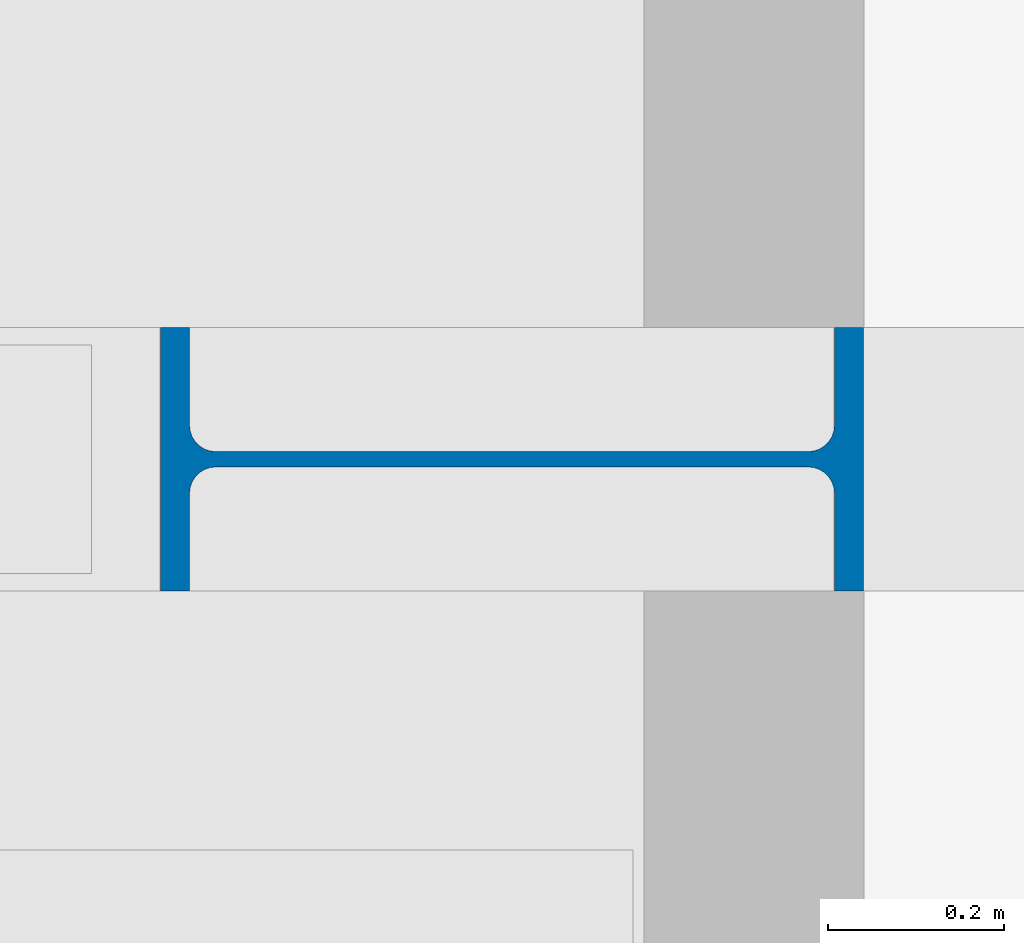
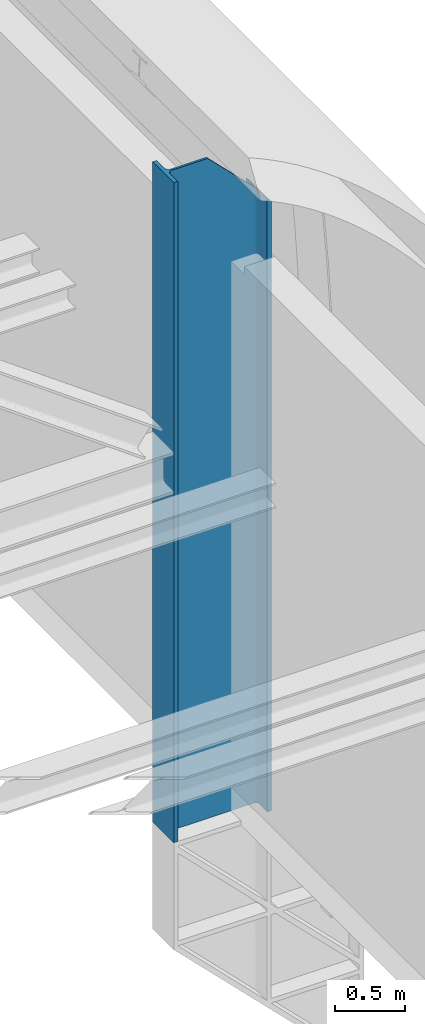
# One storey, part 5 of 29: 1 column.
"""IFC2X3 building model written with IfcOpenShell, lengths in millimetres."""

from ifc_helpers import new_model, entity, si_unit, converted_unit, derived_unit, direction, frame, frame_2d, origin, place, context, subcontext, project, spatial, i_section, extrude, clip, halfspace, source, transform, mapped, material, type_object, type_shapes, element, save


model = new_model("IFC2X3")

# Units and contexts
model_context = context("Model", 3, precision=0.01, world=origin(), true_north=direction((6.12303176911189e-17, 1.0)))
body_context = subcontext(model_context, "Body", "Model", "MODEL_VIEW")
ifc_project = project(units=[si_unit("LENGTHUNIT", "METRE", prefix="MILLI"), si_unit("AREAUNIT", "SQUARE_METRE", prefix="MILLI"), si_unit("VOLUMEUNIT", "CUBIC_METRE"), converted_unit("PLANEANGLEUNIT", "DEGREE", entity("IfcRatioMeasure", 0.0174532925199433), si_unit("PLANEANGLEUNIT", "RADIAN"), dimensions=[0, 0, 0, 0, 0, 0, 0]), si_unit("MASSUNIT", "GRAM", prefix="KILO"), derived_unit("MASSDENSITYUNIT", [(si_unit("MASSUNIT", "GRAM", prefix="KILO"), 1), (si_unit("LENGTHUNIT", "METRE"), -3)]), derived_unit("MOMENTOFINERTIAUNIT", [(si_unit("LENGTHUNIT", "METRE"), 4)]), si_unit("TIMEUNIT", "SECOND"), si_unit("FREQUENCYUNIT", "HERTZ"), si_unit("THERMODYNAMICTEMPERATUREUNIT", "DEGREE_CELSIUS"), derived_unit("THERMALTRANSMITTANCEUNIT", [(si_unit("MASSUNIT", "GRAM", prefix="KILO"), 1), (si_unit("THERMODYNAMICTEMPERATUREUNIT", "KELVIN"), -1), (si_unit("TIMEUNIT", "SECOND"), -3)]), derived_unit("VOLUMETRICFLOWRATEUNIT", [(si_unit("LENGTHUNIT", "METRE"), 3), (si_unit("TIMEUNIT", "SECOND"), -1)]), si_unit("ELECTRICCURRENTUNIT", "AMPERE"), si_unit("ELECTRICVOLTAGEUNIT", "VOLT"), si_unit("POWERUNIT", "WATT"), si_unit("FORCEUNIT", "NEWTON", prefix="KILO"), si_unit("ILLUMINANCEUNIT", "LUX"), si_unit("LUMINOUSFLUXUNIT", "LUMEN"), si_unit("LUMINOUSINTENSITYUNIT", "CANDELA"), derived_unit("USERDEFINED", [(si_unit("MASSUNIT", "GRAM", prefix="KILO"), -1), (si_unit("LENGTHUNIT", "METRE"), -2), (si_unit("TIMEUNIT", "SECOND"), 3), (si_unit("LUMINOUSFLUXUNIT", "LUMEN"), 1)]), derived_unit("LINEARVELOCITYUNIT", [(si_unit("LENGTHUNIT", "METRE"), 1), (si_unit("TIMEUNIT", "SECOND"), -1)]), si_unit("PRESSUREUNIT", "PASCAL"), derived_unit("USERDEFINED", [(si_unit("LENGTHUNIT", "METRE"), -2), (si_unit("MASSUNIT", "GRAM", prefix="KILO"), 1), (si_unit("TIMEUNIT", "SECOND"), -2)]), derived_unit("LINEARFORCEUNIT", [(si_unit("MASSUNIT", "GRAM", prefix="KILO"), 1), (si_unit("LENGTHUNIT", "METRE"), 1), (si_unit("TIMEUNIT", "SECOND"), -2), (si_unit("LENGTHUNIT", "METRE"), -1)]), derived_unit("PLANARFORCEUNIT", [(si_unit("MASSUNIT", "GRAM", prefix="KILO"), 1), (si_unit("LENGTHUNIT", "METRE"), 1), (si_unit("TIMEUNIT", "SECOND"), -2), (si_unit("LENGTHUNIT", "METRE"), -2)])], contexts=[model_context])

# Site, building, storey
site_placement = place(None, origin())
site = spatial("IfcSite", under=ifc_project, at=site_placement, Name="Theater aan de Parade", CompositionType="ELEMENT")
building_placement = place(site_placement, origin())
building = spatial("IfcBuilding", under=site, at=building_placement, Name="Theater aan de Parade", CompositionType="ELEMENT")
storey_placement = place(building_placement, frame((0.0, 0.0, 20300.0)))
storey = spatial("IfcBuildingStorey", under=building, at=storey_placement, Name="05 vijfde verdieping", CompositionType="ELEMENT", Elevation=20300.0)

# Column
ifc_material = material(Name="00_PBT_MAT_staal_S355")
column_type = type_object("IfcColumnType", Name="28_PBT_SC_staal_H-profiel:S355_HE800B", PredefinedType="COLUMN", material=ifc_material)
shared_shape = source(origin(), body_context, "Body", "Clipping", [
    clip(extrude(i_section(OverallWidth=300.000000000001, OverallDepth=799.999999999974, WebThickness=17.5000000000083, FlangeThickness=32.9999999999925, FilletRadius=29.9999999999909, at=frame_2d((8.65441052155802e-12, -1.73372427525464e-11), x_axis=(1.0, 0.0))), frame((85904.5647725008, 39910.0, 19520.0), z_axis=(0.0, 0.0, 1.0), x_axis=(0.0, -1.0, 0.0)), (0.0, 0.0, 1.0), 5730.0), halfspace(frame((85554.5647724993, 35868.1089971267, 25558.9492687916), z_axis=(0.707106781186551, 0.0, 0.707106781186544), x_axis=(-0.707106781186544, 0.0, 0.707106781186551)), False)),
])
type_shapes(column_type, [shared_shape])
column_placement = place(storey_placement, frame((0.0, 0.0, -20300.0)))
element("IfcColumn", 1, at=column_placement, inside=storey, type_object=column_type, material=ifc_material, Name="28_PBT_SC_staal_H-profiel:S355_HE800B", ObjectType="28_PBT_SC_staal_H-profiel:S355_HE800B", context=body_context, shape_type="MappedRepresentation", body=[
    mapped(shared_shape, transform((0.0, 0.0, 0.0), scale=1.0)),
])

save(model, "model.ifc")
